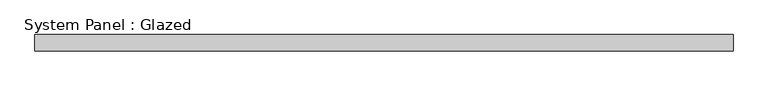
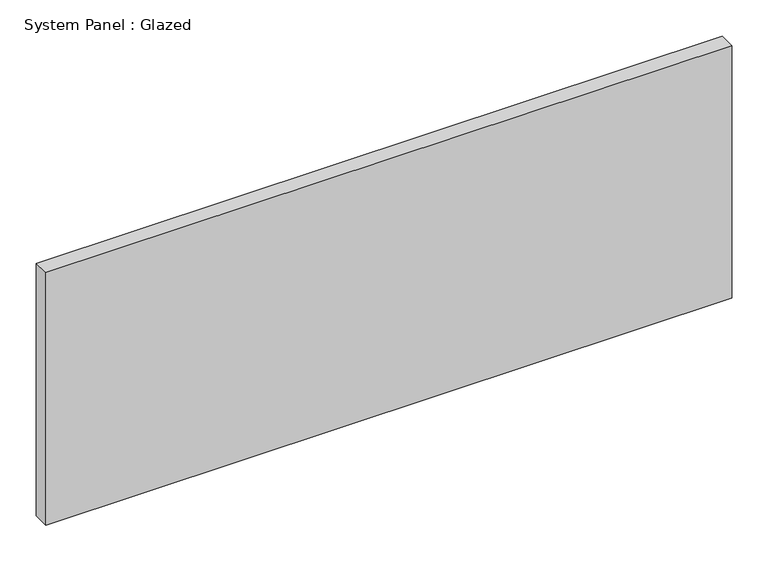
"""IFC4 building model written with IfcOpenShell, lengths in millimetres: plate geometry, System Panel : Glazed."""

from ifc_helpers import new_model, si_unit, origin, origin_with_axes, place, context, project, spatial, polyline, outline, extrude, source, transform, mapped, element, save


def system_panel_glazed_c491d8e6(model_context):
    return source(origin(), model_context, "Body", "SweptSolid", [
        extrude(outline(polyline([(544.1949999, -44.45), (-544.1949999, -44.45), (-544.1949999, -19.05), (544.1949999, -19.05), (544.1949999, -44.45)])), origin_with_axes(), (0.0, 0.0, 1.0), 424.18),
    ])


if __name__ == "__main__":
    model = new_model("IFC4")
    model_context = context("Model", 3, world=origin())
    ifc_project = project(units=[si_unit("LENGTHUNIT", "METRE", prefix="MILLI")], contexts=[model_context])
    site = spatial("IfcSite", under=ifc_project)
    building = spatial("IfcBuilding", under=site)
    placement = place(None, origin())
    system_panel_glazed_shape = system_panel_glazed_c491d8e6(model_context)
    element("IfcPlate", 1, ObjectType="System Panel : Glazed", at=placement, inside=building, context=model_context, shape_type="MappedRepresentation", body=[
        mapped(system_panel_glazed_shape, transform((0.0, 0.0, 0.0), x_axis=(1.0, 0.0, 0.0), y_axis=(0.0, 1.0, 0.0), z_axis=(0.0, 0.0, 1.0))),
    ])
    save(model, "model.ifc")
